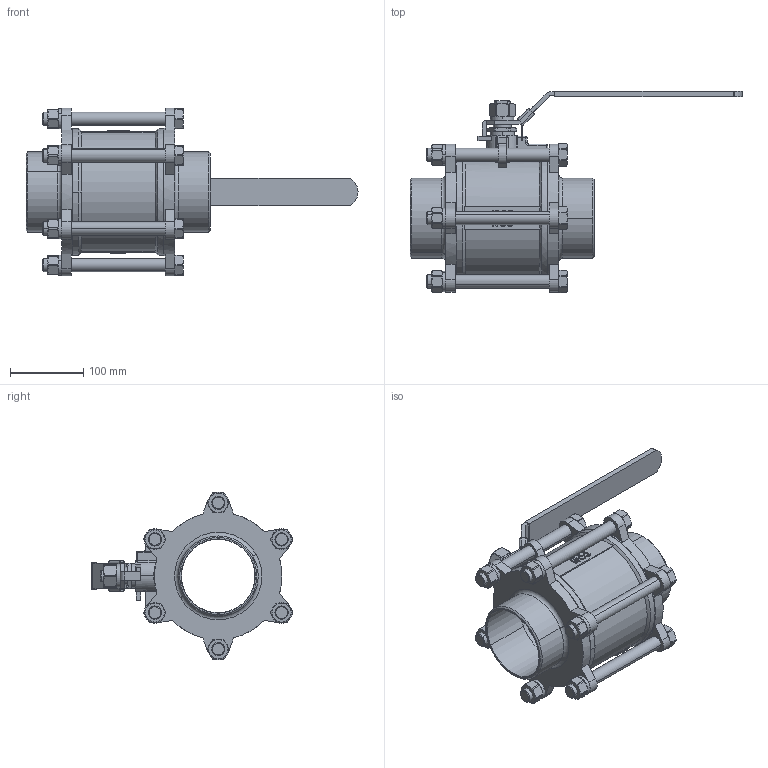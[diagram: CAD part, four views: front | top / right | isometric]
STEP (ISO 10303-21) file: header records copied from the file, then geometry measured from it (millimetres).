
FILE_DESCRIPTION((''),'2;1');
FILE_NAME('100C310_ASM','2020-08-22T',('Administrator'),(''),'CREO PARAMETRIC BY PTC INC, 2016260','CREO PARAMETRIC BY PTC INC, 2016260','');
FILE_SCHEMA(('CONFIG_CONTROL_DESIGN'));
Length unit declared in the file: millimetre
Products named in the file (16): 100T; 24X30X2ZHITUIDIANPIAN; 100FAGAN; 100QIU; 100FAZUO; 100G; M18X180LUOGAN; M18TANDIAN; M18LUOMU; 22X12TIANLIAO; M33X24YATAO; 100SHOUBING; M22TANDIAN; M22LUOMU; 100SUOKOU; 100C310_ASM
Assembly tree (33 placements, depth 2):
  100C310_ASM
    100T
    24X30X2ZHITUIDIANPIAN
    100FAGAN
    100QIU
    100FAZUO  x2
    100G  x2
    M18X180LUOGAN  x6
    M18TANDIAN  x6
    M18LUOMU  x6
    22X12TIANLIAO  x2
    M33X24YATAO
    100SHOUBING
    M22TANDIAN
    M22LUOMU
    100SUOKOU
Bounding box: 451.82 x 274.55 x 228 mm (x, y, z)
Volume: 2607435.4 mm3; surface area: 642463.2 mm2
Topology: 33 solids, 33 shells, 1204 faces, 3088 edges, 1987 vertices
Faces by surface type: plane 696, cylinder 310, cone 151, torus 23, sphere 12, bspline 12
Entity records: 27617 total; most frequent: CARTESIAN_POINT 6184, ORIENTED_EDGE 4468, DIRECTION 4234, EDGE_CURVE 2234, VECTOR 1630, LINE 1630, VERTEX_POINT 1457, AXIS2_PLACEMENT_3D 1302
